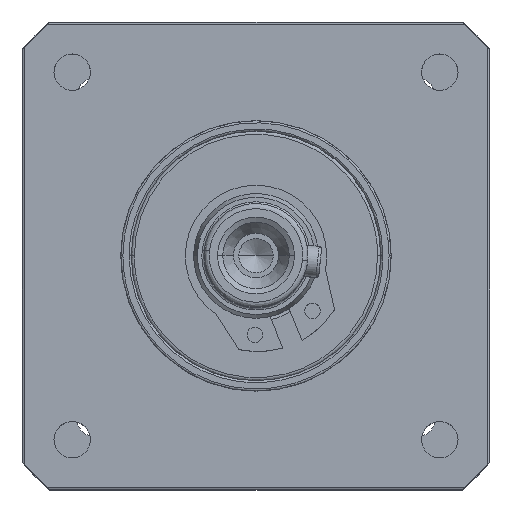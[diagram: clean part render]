
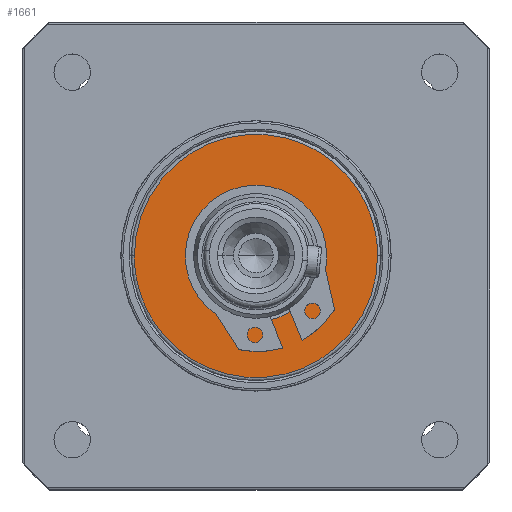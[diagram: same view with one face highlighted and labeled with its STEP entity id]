
A CAD part, top view. The second image highlights one B-rep face of the part: STEP entity #1661.
In plain terms, the highlighted planar face has unit normal (0, 0, 1).
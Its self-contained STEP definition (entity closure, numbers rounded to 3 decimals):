
#195 = EDGE_LOOP ( 'NONE', ( #7235, #31180 ) ) ;
#1661 = ADVANCED_FACE ( 'NONE', ( #37198, #25614 ), #29841, .F. ) ;
#2396 = CARTESIAN_POINT ( 'NONE',  ( 6.89, -9.538, 46.25 ) ) ;
#2650 = CARTESIAN_POINT ( 'NONE',  ( 6.89, 13.862, 46.25 ) ) ;
#3203 = CARTESIAN_POINT ( 'NONE',  ( -16.51, 13.862, 46.25 ) ) ;
#3249 = CARTESIAN_POINT ( 'NONE',  ( 1.49, 1.262, 46.25 ) ) ;
#4908 = EDGE_CURVE ( 'NONE', #22644, #13228, #25662, .T. ) ;
#6136 = CARTESIAN_POINT ( 'NONE',  ( -11.11, 13.862, 46.25 ) ) ;
#6841 = CARTESIAN_POINT ( 'NONE',  ( -16.51, 13.862, 46.25 ) ) ;
#7235 = ORIENTED_EDGE ( 'NONE', *, *, #35779, .F. ) ;
#8908 = VERTEX_POINT ( 'NONE', #33794 ) ;
#9038 = DIRECTION ( 'NONE',  ( 0., 0., -1. ) ) ;
#9040 = CARTESIAN_POINT ( 'NONE',  ( 1.49, 13.862, 46.25 ) ) ;
#9333 = ORIENTED_EDGE ( 'NONE', *, *, #10578, .F. ) ;
#10346 = CARTESIAN_POINT ( 'NONE',  ( -16.51, 13.862, 46.25 ) ) ;
#10578 = EDGE_CURVE ( 'NONE', #13228, #22644, #37183, .T. ) ;
#13228 = VERTEX_POINT ( 'NONE', #40699 ) ;
#13554 = CARTESIAN_POINT ( 'NONE',  ( 1.49, 13.862, 46.25 ) ) ;
#14573 = CARTESIAN_POINT ( 'NONE',  ( -16.51, -9.538, 46.25 ) ) ;
#14635 = CARTESIAN_POINT ( 'NONE',  ( -11.11, 13.862, 46.25 ) ) ;
#18493 = CARTESIAN_POINT ( 'NONE',  ( 6.89, 13.862, 46.25 ) ) ;
#18595 = CARTESIAN_POINT ( 'NONE',  ( 1.49, 13.862, 46.25 ) ) ;
#19026 = CARTESIAN_POINT ( 'NONE',  ( 6.89, 37.262, 46.25 ) ) ;
#22226 = DIRECTION ( 'NONE',  ( -1., 0., 0. ) ) ;
#22644 = VERTEX_POINT ( 'NONE', #3203 ) ;
#23033 = ORIENTED_EDGE ( 'NONE', *, *, #4908, .F. ) ;
#24382 = EDGE_CURVE ( 'NONE', #36069, #8908, #43996, .T. ) ;
#25614 = FACE_BOUND ( 'NONE', #195, .T. ) ;
#25662 =( BOUNDED_CURVE ( )  B_SPLINE_CURVE ( 3, ( #6841, #46133, #19026, #18493 ),
 .UNSPECIFIED., .F., .F. ) 
 B_SPLINE_CURVE_WITH_KNOTS ( ( 4, 4 ),
 ( 0., 1. ),
 .UNSPECIFIED. ) 
 CURVE ( )  GEOMETRIC_REPRESENTATION_ITEM ( )  RATIONAL_B_SPLINE_CURVE ( ( 1., 0.333, 0.333, 1. ) ) 
 REPRESENTATION_ITEM ( '' )  );
#29841 = PLANE ( 'NONE',  #44698 ) ;
#30136 = CARTESIAN_POINT ( 'NONE',  ( -11.11, 26.462, 46.25 ) ) ;
#31180 = ORIENTED_EDGE ( 'NONE', *, *, #24382, .F. ) ;
#33794 = CARTESIAN_POINT ( 'NONE',  ( -11.11, 13.862, 46.25 ) ) ;
#35779 = EDGE_CURVE ( 'NONE', #8908, #36069, #47515, .T. ) ;
#36069 = VERTEX_POINT ( 'NONE', #9040 ) ;
#37183 =( BOUNDED_CURVE ( )  B_SPLINE_CURVE ( 3, ( #2650, #2396, #14573, #10346 ),
 .UNSPECIFIED., .F., .F. ) 
 B_SPLINE_CURVE_WITH_KNOTS ( ( 4, 4 ),
 ( 0., 1. ),
 .UNSPECIFIED. ) 
 CURVE ( )  GEOMETRIC_REPRESENTATION_ITEM ( )  RATIONAL_B_SPLINE_CURVE ( ( 1., 0.333, 0.333, 1. ) ) 
 REPRESENTATION_ITEM ( '' )  );
#37198 = FACE_OUTER_BOUND ( 'NONE', #51307, .T. ) ;
#40699 = CARTESIAN_POINT ( 'NONE',  ( 6.89, 13.862, 46.25 ) ) ;
#41726 = CARTESIAN_POINT ( 'NONE',  ( 1.49, 26.462, 46.25 ) ) ;
#43996 =( BOUNDED_CURVE ( )  B_SPLINE_CURVE ( 3, ( #13554, #41726, #30136, #6136 ),
 .UNSPECIFIED., .F., .F. ) 
 B_SPLINE_CURVE_WITH_KNOTS ( ( 4, 4 ),
 ( 0., 1. ),
 .UNSPECIFIED. ) 
 CURVE ( )  GEOMETRIC_REPRESENTATION_ITEM ( )  RATIONAL_B_SPLINE_CURVE ( ( 1., 0.333, 0.333, 1. ) ) 
 REPRESENTATION_ITEM ( '' )  );
#44698 = AXIS2_PLACEMENT_3D ( 'NONE', #45147, #9038, #22226 ) ;
#45147 = CARTESIAN_POINT ( 'NONE',  ( -4.81, 25.562, 46.25 ) ) ;
#46133 = CARTESIAN_POINT ( 'NONE',  ( -16.51, 37.262, 46.25 ) ) ;
#47515 =( BOUNDED_CURVE ( )  B_SPLINE_CURVE ( 3, ( #14635, #50729, #3249, #18595 ),
 .UNSPECIFIED., .F., .T. ) 
 B_SPLINE_CURVE_WITH_KNOTS ( ( 4, 4 ),
 ( 0., 1. ),
 .UNSPECIFIED. ) 
 CURVE ( )  GEOMETRIC_REPRESENTATION_ITEM ( )  RATIONAL_B_SPLINE_CURVE ( ( 1., 0.333, 0.333, 1. ) ) 
 REPRESENTATION_ITEM ( '' )  );
#50729 = CARTESIAN_POINT ( 'NONE',  ( -11.11, 1.262, 46.25 ) ) ;
#51307 = EDGE_LOOP ( 'NONE', ( #9333, #23033 ) ) ;
